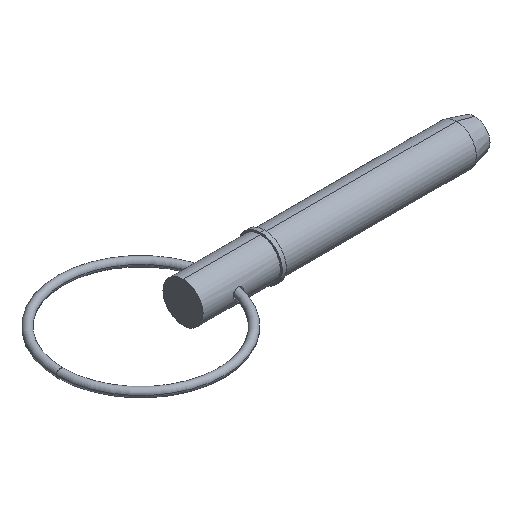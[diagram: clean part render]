
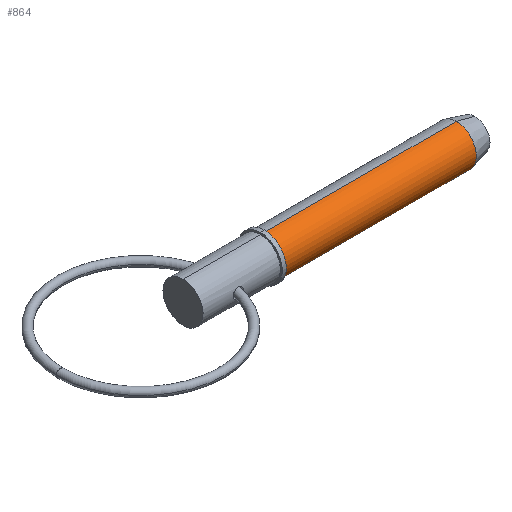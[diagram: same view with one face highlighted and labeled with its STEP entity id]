
A CAD part, isometric view. The second image highlights one B-rep face of the part: STEP entity #864.
In plain terms, the highlighted cylindrical face has radius 6.35 mm (diameter 12.7 mm), a partial arc.
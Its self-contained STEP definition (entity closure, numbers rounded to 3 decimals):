
#6 = VECTOR ( 'NONE', #865, 1000. ) ;
#26 = CYLINDRICAL_SURFACE ( 'NONE', #925, 6.35 ) ;
#37 = FACE_OUTER_BOUND ( 'NONE', #81, .T. ) ;
#61 = CARTESIAN_POINT ( 'NONE',  ( 0., 0., 6.35 ) ) ;
#73 = CIRCLE ( 'NONE', #722, 6.35 ) ;
#81 = EDGE_LOOP ( 'NONE', ( #661, #254, #620, #460 ) ) ;
#110 = EDGE_CURVE ( 'NONE', #787, #645, #224, .T. ) ;
#224 = LINE ( 'NONE', #61, #6 ) ;
#240 = DIRECTION ( 'NONE',  ( 0., 0., -1. ) ) ;
#245 = DIRECTION ( 'NONE',  ( 1., 0., 0. ) ) ;
#254 = ORIENTED_EDGE ( 'NONE', *, *, #527, .T. ) ;
#256 = CARTESIAN_POINT ( 'NONE',  ( 0., 0., -6.35 ) ) ;
#327 = LINE ( 'NONE', #256, #585 ) ;
#337 = EDGE_CURVE ( 'NONE', #645, #703, #73, .T. ) ;
#350 = VERTEX_POINT ( 'NONE', #695 ) ;
#409 = CARTESIAN_POINT ( 'NONE',  ( 25.7, 0., 0. ) ) ;
#416 = CARTESIAN_POINT ( 'NONE',  ( 86.455, 0., -6.35 ) ) ;
#460 = ORIENTED_EDGE ( 'NONE', *, *, #337, .F. ) ;
#509 = CARTESIAN_POINT ( 'NONE',  ( 25.7, 0., 6.35 ) ) ;
#527 = EDGE_CURVE ( 'NONE', #787, #350, #957, .T. ) ;
#565 = CARTESIAN_POINT ( 'NONE',  ( 86.455, 0., 6.35 ) ) ;
#585 = VECTOR ( 'NONE', #245, 1000. ) ;
#612 = DIRECTION ( 'NONE',  ( 1., 0., 0. ) ) ;
#620 = ORIENTED_EDGE ( 'NONE', *, *, #830, .T. ) ;
#645 = VERTEX_POINT ( 'NONE', #565 ) ;
#661 = ORIENTED_EDGE ( 'NONE', *, *, #110, .F. ) ;
#695 = CARTESIAN_POINT ( 'NONE',  ( 25.7, 0., -6.35 ) ) ;
#703 = VERTEX_POINT ( 'NONE', #416 ) ;
#722 = AXIS2_PLACEMENT_3D ( 'NONE', #1016, #612, #856 ) ;
#787 = VERTEX_POINT ( 'NONE', #509 ) ;
#792 = AXIS2_PLACEMENT_3D ( 'NONE', #409, #963, #240 ) ;
#830 = EDGE_CURVE ( 'NONE', #350, #703, #327, .T. ) ;
#855 = CARTESIAN_POINT ( 'NONE',  ( 0., 0., 0. ) ) ;
#856 = DIRECTION ( 'NONE',  ( 0., 0., -1. ) ) ;
#864 = ADVANCED_FACE ( 'NONE', ( #37 ), #26, .T. ) ;
#865 = DIRECTION ( 'NONE',  ( 1., 0., 0. ) ) ;
#925 = AXIS2_PLACEMENT_3D ( 'NONE', #855, #940, #995 ) ;
#940 = DIRECTION ( 'NONE',  ( 1., 0., 0. ) ) ;
#957 = CIRCLE ( 'NONE', #792, 6.35 ) ;
#963 = DIRECTION ( 'NONE',  ( 1., 0., 0. ) ) ;
#995 = DIRECTION ( 'NONE',  ( 0., 0., -1. ) ) ;
#1016 = CARTESIAN_POINT ( 'NONE',  ( 86.455, 0., 0. ) ) ;
